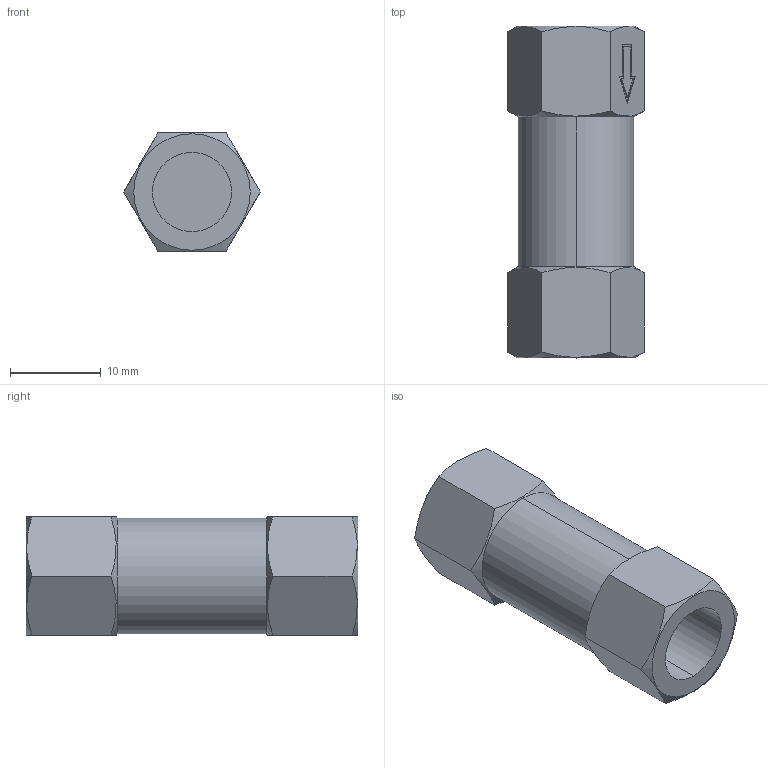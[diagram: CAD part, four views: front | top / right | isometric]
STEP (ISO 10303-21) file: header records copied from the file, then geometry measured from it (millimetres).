
FILE_DESCRIPTION (( 'STEP AP203' ), '1' );
FILE_NAME ('04130001.STEP', '2010-04-30T14:20:34', ( 'Flavio' ), ( '' ), 'SwSTEP 2.0', 'SolidWorks 2009', '' );
FILE_SCHEMA (( 'CONFIG_CONTROL_DESIGN' ));
Length unit declared in the file: millimetre
Products named in the file (1): 04130001
Bounding box: 15.01 x 36.5 x 13 mm (x, y, z)
Volume: 3992.6 mm3; surface area: 2322.5 mm2
Topology: 1 solids, 1 shells, 47 faces, 118 edges, 78 vertices
Faces by surface type: plane 33, cone 8, cylinder 6
Entity records: 1663 total; most frequent: CARTESIAN_POINT 500, ORIENTED_EDGE 236, DIRECTION 200, EDGE_CURVE 118, VERTEX_POINT 78, VECTOR 68, LINE 68, AXIS2_PLACEMENT_3D 66
